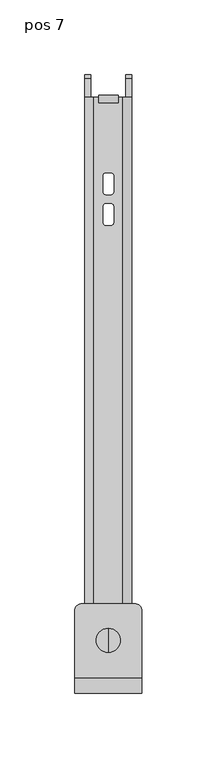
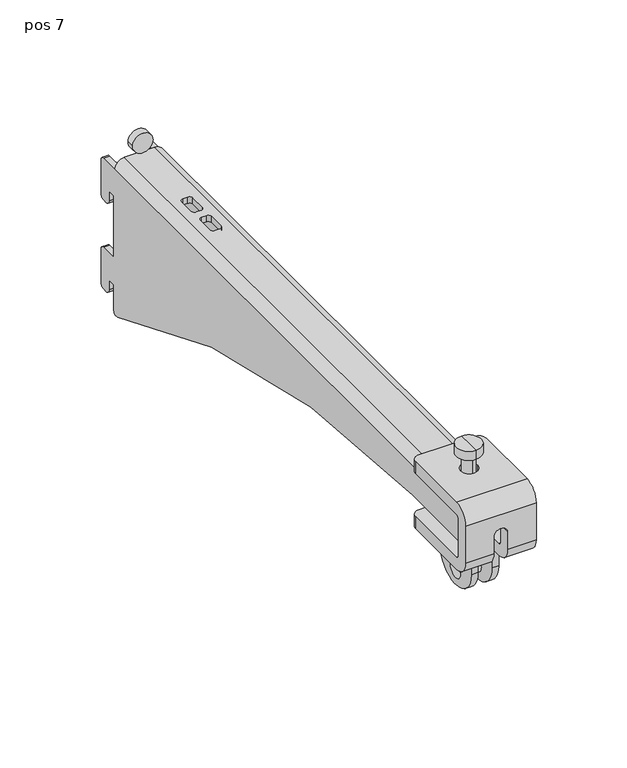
"""IFC4 building model written with IfcOpenShell, lengths in millimetres: proxy geometry, ePS12-WM380-BUMP-WVM : pos 7."""

from ifc_helpers import new_model, si_unit, point, frame, frame_2d, origin, place, context, project, spatial, polyline, circle_curve, trimmed, segment, composite_curve, outline, extrude, source, transform, mapped, element, save
from ifc_brep_helpers import plane_surface, cylinder_surface, revolved_surface, advanced_brep


def pos_7_1f363d26(model_context):
    return source(origin(), model_context, "Body", "SolidModel", [
        extrude(outline(composite_curve([segment(polyline([(-397.4094917, -61.9639301), (-397.4094917, -48.9639301), (-362.4094917, -48.9639301), (-362.4094917, -61.9639301)]), True, "CONTINUOUS"), segment(trimmed(circle_curve(frame_2d((-379.4094917, -61.9639301)), 17.0), [point((-362.4094917, -61.9639301))], [point((-379.4094917, -78.9639301))], False, "CARTESIAN"), True, "CONTINUOUS"), segment(polyline([(-379.4094917, -78.9639301), (-380.4094917, -78.9639301)]), True, "CONTINUOUS"), segment(trimmed(circle_curve(frame_2d((-380.4094917, -61.9639301)), 17.0), [point((-380.4094917, -78.9639301))], [point((-397.4094917, -61.9639301))], False, "CARTESIAN"), True, "CONTINUOUS")], self_intersect=False), holes=[composite_curve([segment(trimmed(circle_curve(frame_2d((-379.9094917, -68.9639301)), 5.5), [point((-374.4094917, -68.9639301))], [point((-385.4094917, -68.9639301))], True, "CARTESIAN"), True, "CONTINUOUS"), segment(trimmed(circle_curve(frame_2d((-379.9094917, -68.9639301)), 5.5), [point((-385.4094917, -68.9639301))], [point((-374.4094917, -68.9639301))], True, "CARTESIAN"), True, "CONTINUOUS")], self_intersect=False)]), frame((4.5, 0.0, 0.0), z_axis=(1.0, 0.0, 0.0), x_axis=(0.0, 1.0, 0.0)), (0.0, 0.0, 1.0), 4.2),
        extrude(outline(composite_curve([segment(polyline([(-397.4094917, -48.9639301), (-362.4094917, -48.9639301), (-362.4094917, -61.9639301)]), True, "CONTINUOUS"), segment(trimmed(circle_curve(frame_2d((-379.4094917, -61.9639301)), 17.0), [point((-362.4094917, -61.9639301))], [point((-379.4094917, -78.9639301))], False, "CARTESIAN"), True, "CONTINUOUS"), segment(polyline([(-379.4094917, -78.9639301), (-380.4094917, -78.9639301)]), True, "CONTINUOUS"), segment(trimmed(circle_curve(frame_2d((-380.4094917, -61.9639301)), 17.0), [point((-380.4094917, -78.9639301))], [point((-397.4094917, -61.9639301))], False, "CARTESIAN"), True, "CONTINUOUS"), segment(polyline([(-397.4094917, -61.9639301), (-397.4094917, -48.9639301)]), True, "CONTINUOUS")], self_intersect=False), holes=[composite_curve([segment(trimmed(circle_curve(frame_2d((-379.9094917, -68.9639301)), 5.5), [point((-385.4094917, -68.9639301))], [point((-374.4094917, -68.9639301))], True, "CARTESIAN"), True, "CONTINUOUS"), segment(trimmed(circle_curve(frame_2d((-379.9094917, -68.9639301)), 5.5), [point((-374.4094917, -68.9639301))], [point((-385.4094917, -68.9639301))], True, "CARTESIAN"), True, "CONTINUOUS")], self_intersect=False)]), frame((-8.7, 0.0, 0.0), z_axis=(1.0, 0.0, 0.0), x_axis=(0.0, 1.0, 0.0)), (0.0, 0.0, 1.0), 4.2),
        advanced_brep(
        [(22.5, -404.9094917, -3.9639301), (22.5, -414.9094917, -13.9639301), (22.5, -414.9094917, -38.9639301), (22.5, -404.9094917, -48.9639301), (22.5, -359.9094917, -48.9639301), (22.5, -359.9094917, -40.9639301), (22.5, -404.9094917, -40.9639301), (22.5, -406.9094917, -38.9639301), (22.5, -406.9094917, -13.9639301), (22.5, -404.9094917, -11.9639301), (22.5, -359.9094917, -11.9639301), (22.5, -359.9094917, -3.9639301), (-22.5, -404.9094917, -11.9639301), (-22.5, -406.9094917, -13.9639301), (-22.5, -406.9094917, -38.9639301), (-22.5, -404.9094917, -40.9639301), (-22.5, -359.9094917, -40.9639301), (-22.5, -359.9094917, -48.9639301), (-22.5, -404.9094917, -48.9639301), (-22.5, -414.9094917, -38.9639301), (-22.5, -414.9094917, -13.9639301), (-22.5, -404.9094917, -3.9639301), (-22.5, -359.9094917, -3.9639301), (-22.5, -359.9094917, -11.9639301), (-4.5, -414.9094917, -38.9639301), (-4.5, -414.9094917, -27.388708), (-0.5, -414.9094917, -23.388708), (0.5, -414.9094917, -23.388708), (4.5, -414.9094917, -27.388708), (4.5, -414.9094917, -38.9639301), (4.5, -404.9094917, -48.9639301), (-4.5, -404.9094917, -48.9639301), (4.5, -359.9094917, -48.9639301), (9.5, -354.9094917, -48.9639301), (17.5, -354.9094917, -48.9639301), (-17.5, -354.9094917, -48.9639301), (-9.5, -354.9094917, -48.9639301), (-4.5, -359.9094917, -48.9639301), (-17.5, -354.9094917, -40.9639301), (-9.5, -354.9094917, -40.9639301), (17.5, -354.9094917, -40.9639301), (9.5, -354.9094917, -40.9639301), (4.5, -359.9094917, -40.9639301), (4.5, -404.9094917, -40.9639301), (-4.5, -404.9094917, -40.9639301), (-4.5, -359.9094917, -40.9639301), (4.5, -406.9094917, -38.9639301), (-4.5, -406.9094917, -38.9639301), (4.5, -406.9094917, -27.388708), (0.5, -406.9094917, -23.388708), (-0.5, -406.9094917, -23.388708), (-4.5, -406.9094917, -27.388708), (-17.5, -354.9094917, -11.9639301), (17.5, -354.9094917, -11.9639301), (-5.4761514, -379.9094917, -11.9639301), (5.4761514, -379.9094917, -11.9639301), (-17.5, -354.9094917, -3.9639301), (17.5, -354.9094917, -3.9639301), (5.4761514, -379.9094917, -3.9639301), (-5.4761514, -379.9094917, -3.9639301)],
        [
            (0, 1, circle_curve(frame((22.5, -404.9094917, -13.9639301), z_axis=(1.0, 0.0, 0.0), x_axis=(0.0, 1.0, 0.0)), 10.0)),
            (1, 2),
            (2, 3, circle_curve(frame((22.5, -404.9094917, -38.9639301), z_axis=(1.0, 0.0, 0.0), x_axis=(0.0, 1.0, 0.0)), 10.0)),
            (3, 4),
            (4, 5),
            (5, 6),
            (6, 7, circle_curve(frame((22.5, -404.9094917, -38.9639301), z_axis=(-1.0, 0.0, 0.0), x_axis=(0.0, 1.0, 0.0)), 2.0)),
            (7, 8),
            (8, 9, circle_curve(frame((22.5, -404.9094917, -13.9639301), z_axis=(-1.0, 0.0, 0.0), x_axis=(0.0, 1.0, 0.0)), 2.0)),
            (9, 10),
            (10, 11),
            (11, 0),
            (12, 13, circle_curve(frame((-22.5, -404.9094917, -13.9639301), z_axis=(1.0, 0.0, 0.0), x_axis=(0.0, 1.0, 0.0)), 2.0)),
            (13, 14),
            (14, 15, circle_curve(frame((-22.5, -404.9094917, -38.9639301), z_axis=(1.0, 0.0, 0.0), x_axis=(0.0, 1.0, 0.0)), 2.0)),
            (15, 16),
            (16, 17),
            (17, 18),
            (18, 19, circle_curve(frame((-22.5, -404.9094917, -38.9639301), z_axis=(-1.0, 0.0, 0.0), x_axis=(0.0, 1.0, 0.0)), 10.0)),
            (19, 20),
            (20, 21, circle_curve(frame((-22.5, -404.9094917, -13.9639301), z_axis=(-1.0, 0.0, 0.0), x_axis=(0.0, 1.0, 0.0)), 10.0)),
            (21, 22),
            (22, 23),
            (23, 12),
            (0, 21),
            (20, 1),
            (19, 24),
            (24, 25),
            (25, 26, circle_curve(frame((-0.5, -414.9094917, -27.388708), z_axis=(0.0, 1.0, 0.0), x_axis=(1.0, 0.0, 0.0)), 4.0)),
            (26, 27),
            (27, 28, circle_curve(frame((0.5, -414.9094917, -27.388708), z_axis=(0.0, 1.0, 0.0), x_axis=(1.0, 0.0, 0.0)), 4.0)),
            (28, 29),
            (29, 2),
            (29, 30, circle_curve(frame((4.5, -404.9094917, -38.9639301), z_axis=(1.0, 0.0, 0.0), x_axis=(0.0, 1.0, 0.0)), 10.0)),
            (30, 3),
            (18, 31),
            (31, 24, circle_curve(frame((-4.5, -404.9094917, -38.9639301), z_axis=(-1.0, 0.0, 0.0), x_axis=(0.0, 1.0, 0.0)), 10.0)),
            (30, 32),
            (32, 33, circle_curve(frame((9.5, -359.9094917, -48.9639301), z_axis=(0.0, 0.0, -1.0), x_axis=(-1.0, 0.0, 0.0)), 5.0)),
            (33, 34),
            (34, 4, circle_curve(frame((17.5, -359.9094917, -48.9639301), z_axis=(0.0, 0.0, -1.0), x_axis=(-1.0, 0.0, 0.0)), 5.0)),
            (17, 35, circle_curve(frame((-17.5, -359.9094917, -48.9639301), z_axis=(0.0, 0.0, -1.0), x_axis=(1.0, 0.0, 0.0)), 5.0)),
            (35, 36),
            (36, 37, circle_curve(frame((-9.5, -359.9094917, -48.9639301), z_axis=(0.0, 0.0, -1.0), x_axis=(1.0, 0.0, 0.0)), 5.0)),
            (37, 31),
            (35, 38),
            (38, 39),
            (39, 36),
            (40, 34),
            (33, 41),
            (41, 40),
            (5, 40, circle_curve(frame((17.5, -359.9094917, -40.9639301), z_axis=(0.0, 0.0, 1.0), x_axis=(-1.0, 0.0, 0.0)), 5.0)),
            (41, 42, circle_curve(frame((9.5, -359.9094917, -40.9639301), z_axis=(0.0, 0.0, 1.0), x_axis=(-1.0, 0.0, 0.0)), 5.0)),
            (42, 43),
            (43, 6),
            (15, 44),
            (44, 45),
            (45, 39, circle_curve(frame((-9.5, -359.9094917, -40.9639301), z_axis=(0.0, 0.0, 1.0), x_axis=(1.0, 0.0, 0.0)), 5.0)),
            (38, 16, circle_curve(frame((-17.5, -359.9094917, -40.9639301), z_axis=(0.0, 0.0, 1.0), x_axis=(1.0, 0.0, 0.0)), 5.0)),
            (43, 46, circle_curve(frame((4.5, -404.9094917, -38.9639301), z_axis=(-1.0, 0.0, 0.0), x_axis=(0.0, 1.0, 0.0)), 2.0)),
            (46, 7),
            (14, 47),
            (47, 44, circle_curve(frame((-4.5, -404.9094917, -38.9639301), z_axis=(1.0, 0.0, 0.0), x_axis=(0.0, 1.0, 0.0)), 2.0)),
            (46, 48),
            (48, 49, circle_curve(frame((0.5, -406.9094917, -27.388708), z_axis=(0.0, -1.0, 0.0), x_axis=(1.0, 0.0, 0.0)), 4.0)),
            (49, 50),
            (50, 51, circle_curve(frame((-0.5, -406.9094917, -27.388708), z_axis=(0.0, -1.0, 0.0), x_axis=(1.0, 0.0, 0.0)), 4.0)),
            (51, 47),
            (13, 8),
            (12, 9),
            (23, 52, circle_curve(frame((-17.5, -359.9094917, -11.9639301), z_axis=(0.0, 0.0, -1.0), x_axis=(1.0, 0.0, 0.0)), 5.0)),
            (52, 53),
            (53, 10, circle_curve(frame((17.5, -359.9094917, -11.9639301), z_axis=(0.0, 0.0, -1.0), x_axis=(-1.0, 0.0, 0.0)), 5.0)),
            (54, 55, circle_curve(frame((0.0, -379.9094917, -11.9639301), z_axis=(0.0, 0.0, 1.0), x_axis=(1.0, 0.0, 0.0)), 5.4761514)),
            (55, 54, circle_curve(frame((0.0, -379.9094917, -11.9639301), z_axis=(0.0, 0.0, 1.0), x_axis=(1.0, 0.0, 0.0)), 5.4761514)),
            (52, 56),
            (56, 57),
            (57, 53),
            (11, 57, circle_curve(frame((17.5, -359.9094917, -3.9639301), z_axis=(0.0, 0.0, 1.0), x_axis=(-1.0, 0.0, 0.0)), 5.0)),
            (56, 22, circle_curve(frame((-17.5, -359.9094917, -3.9639301), z_axis=(0.0, 0.0, 1.0), x_axis=(1.0, 0.0, 0.0)), 5.0)),
            (58, 59, circle_curve(frame((0.0, -379.9094917, -3.9639301), z_axis=(0.0, 0.0, -1.0), x_axis=(1.0, 0.0, 0.0)), 5.4761514)),
            (59, 58, circle_curve(frame((0.0, -379.9094917, -3.9639301), z_axis=(0.0, 0.0, -1.0), x_axis=(1.0, 0.0, 0.0)), 5.4761514)),
            (58, 55),
            (54, 59),
            (28, 48),
            (42, 32),
            (27, 49),
            (26, 50),
            (25, 51),
            (37, 45),
        ],
        [
            plane_surface(frame((22.5, -394.9094917, -13.9639301), z_axis=(1.0, 0.0, 0.0), x_axis=(0.0, 0.0, 1.0))),
            plane_surface(frame((-22.5, -394.9094917, -13.9639301), z_axis=(-1.0, 0.0, 0.0), x_axis=(0.0, 0.0, -1.0))),
            cylinder_surface(frame((-22.5, -404.9094917, -13.9639301), z_axis=(1.0, 0.0, 0.0), x_axis=(0.0, 1.0, 0.0)), 10.0),
            plane_surface(frame((22.5, -414.9094917, -13.9639301), z_axis=(0.0, -1.0, 0.0), x_axis=(-1.0, 0.0, 0.0))),
            cylinder_surface(frame((-22.5, -404.9094917, -38.9639301), z_axis=(1.0, 0.0, 0.0), x_axis=(0.0, 1.0, 0.0)), 10.0),
            plane_surface(frame((22.5, -404.9094917, -48.9639301), z_axis=(0.0, 0.0, -1.0), x_axis=(-1.0, 0.0, 0.0))),
            plane_surface(frame((22.5, -354.9094917, -48.9639301), z_axis=(0.0, 1.0, 0.0), x_axis=(-1.0, 0.0, 0.0))),
            plane_surface(frame((22.5, -354.9094917, -40.9639301), z_axis=(0.0, 0.0, 1.0), x_axis=(-1.0, 0.0, 0.0))),
            revolved_surface(polyline([(4.5, -402.9094917, -38.9639301), (22.5, -402.9094917, -38.9639301)]), (-22.5, -404.9094917, -38.9639301), (-1.0, 0.0, 0.0)),
            revolved_surface(polyline([(-22.5, -402.9094917, -38.9639301), (-4.5, -402.9094917, -38.9639301)]), (-22.5, -404.9094917, -38.9639301), (-1.0, 0.0, 0.0)),
            plane_surface(frame((22.5, -406.9094917, -38.9639301), z_axis=(0.0, 1.0, 0.0), x_axis=(-1.0, 0.0, 0.0))),
            revolved_surface(polyline([(-22.5, -402.9094917, -13.9639301), (22.5, -402.9094917, -13.9639301)]), (-22.5, -404.9094917, -13.9639301), (-1.0, 0.0, 0.0)),
            plane_surface(frame((22.5, -404.9094917, -11.9639301), z_axis=(0.0, 0.0, -1.0), x_axis=(-1.0, 0.0, 0.0))),
            plane_surface(frame((22.5, -354.9094917, -11.9639301), z_axis=(0.0, 1.0, 0.0), x_axis=(-1.0, 0.0, 0.0))),
            plane_surface(frame((22.5, -354.9094917, -3.9639301), z_axis=(0.0, 0.0, 1.0), x_axis=(-1.0, 0.0, 0.0))),
            cylinder_surface(frame((-17.5, -359.9094917, -48.9639301), z_axis=(0.0, 0.0, -1.0), x_axis=(1.0, 0.0, 0.0)), 5.0),
            cylinder_surface(frame((17.5, -359.9094917, -11.9639301), z_axis=(0.0, 0.0, -1.0), x_axis=(-1.0, 0.0, 0.0)), 5.0),
            revolved_surface(polyline([(5.4761514, -379.9094917, -3.9639301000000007), (5.4761514, -379.9094917, -11.9639301)]), (0.0, -379.9094917, -11.9639301), (0.0, 0.0, 1.0)),
            plane_surface(frame((4.5, -414.9094917, -78.9639301), z_axis=(-1.0, 0.0, 0.0), x_axis=(0.0, 1.0, 0.0))),
            revolved_surface(polyline([(4.5, -414.9094917, -27.388708), (4.5, -406.9094917, -27.388708)]), (0.5, -354.9094917, -27.388708), (0.0, -1.0, 0.0)),
            plane_surface(frame((0.5, -414.9094917, -23.388708), z_axis=(0.0, 0.0, -1.0), x_axis=(0.0, 1.0, 0.0))),
            revolved_surface(polyline([(3.5, -414.9094917, -27.388708), (3.5, -406.9094917, -27.388708)]), (-0.5, -354.9094917, -27.388708), (0.0, -1.0, 0.0)),
            plane_surface(frame((-4.5, -414.9094917, -27.388708), z_axis=(1.0, 0.0, 0.0), x_axis=(0.0, 1.0, 0.0))),
            cylinder_surface(frame((-9.5, -359.9094917, -48.9639301), z_axis=(0.0, 0.0, -1.0), x_axis=(1.0, 0.0, 0.0)), 5.0),
            cylinder_surface(frame((9.5, -359.9094917, -11.9639301), z_axis=(0.0, 0.0, -1.0), x_axis=(-1.0, 0.0, 0.0)), 5.0),
        ],
        [
            (0, [[1, 2, 3, 4, 5, 6, 7, 8, 9, 10, 11, 12]]),
            (1, [[13, 14, 15, 16, 17, 18, 19, 20, 21, 22, 23, 24]]),
            (2, [[-1, 25, -21, 26]]),
            (3, [[-2, -26, -20, 27, 28, 29, 30, 31, 32, 33]]),
            (4, [[-3, -33, 34, 35]]),
            (4, [[-19, 36, 37, -27]]),
            (5, [[-4, -35, 38, 39, 40, 41]]),
            (5, [[-18, 42, 43, 44, 45, -36]]),
            (6, [[46, 47, 48, -43]]),
            (6, [[49, -40, 50, 51]]),
            (7, [[-6, 52, -51, 53, 54, 55]]),
            (7, [[-16, 56, 57, 58, -47, 59]]),
            (8, [[-7, -55, 60, 61]]),
            (9, [[-15, 62, 63, -56]]),
            (10, [[-8, -61, 64, 65, 66, 67, 68, -62, -14, 69]]),
            (11, [[-9, -69, -13, 70]]),
            (12, [[-70, -24, 71, 72, 73, -10], [74, 75]]),
            (13, [[-72, 76, 77, 78]]),
            (14, [[-25, -12, 79, -77, 80, -22], [81, 82]]),
            (15, [[-17, -59, -46, -42]]),
            (15, [[-23, -80, -76, -71]]),
            (16, [[-5, -41, -49, -52]]),
            (16, [[-11, -73, -78, -79]]),
            (17, [[83, -74, 84, -81]]),
            (17, [[-83, -82, -84, -75]]),
            (18, [[85, -64, -60, -54, 86, -38, -34, -32]]),
            (19, [[-85, -31, 87, -65]]),
            (20, [[-87, -30, 88, -66]]),
            (21, [[-88, -29, 89, -67]]),
            (22, [[-89, -28, -37, -45, 90, -57, -63, -68]]),
            (23, [[-44, -48, -58, -90]]),
            (24, [[-39, -86, -53, -50]]),
        ],
    ),
        advanced_brep(
        [(0.0, -371.5, 6.5732871), (0.0, -387.5, 6.5732871), (0.0, -387.5, 12.5197113), (0.0, -371.5, 12.5197113), (0.0, -375.5, 6.5732871), (0.0, -383.5, 6.5732871), (0.0, -375.5, -12.0), (0.0, -383.5, -12.0), (0.0, -379.5, 12.5197113)],
        [
            (0, 1, circle_curve(frame((0.0, -379.5, 6.5732871), z_axis=(0.0, 0.0, 1.0), x_axis=(0.0, -1.0, 0.0)), 8.0)),
            (1, 2),
            (2, 3, circle_curve(frame((0.0, -379.5, 12.5197113), z_axis=(0.0, 0.0, -1.0), x_axis=(0.0, -1.0, 0.0)), 8.0)),
            (3, 0),
            (1, 0, circle_curve(frame((0.0, -379.5, 6.5732871), z_axis=(0.0, 0.0, 1.0), x_axis=(0.0, -1.0, 0.0)), 8.0)),
            (3, 2, circle_curve(frame((0.0, -379.5, 12.5197113), z_axis=(0.0, 0.0, -1.0), x_axis=(0.0, -1.0, 0.0)), 8.0)),
            (0, 4),
            (4, 5, circle_curve(frame((0.0, -379.5, 6.5732871), z_axis=(0.0, 0.0, 1.0), x_axis=(0.0, -1.0, 0.0)), 4.0)),
            (5, 1),
            (5, 4, circle_curve(frame((0.0, -379.5, 6.5732871), z_axis=(0.0, 0.0, 1.0), x_axis=(0.0, -1.0, 0.0)), 4.0)),
            (4, 6),
            (6, 7, circle_curve(frame((0.0, -379.5, -12.0), z_axis=(0.0, 0.0, 1.0), x_axis=(0.0, -1.0, 0.0)), 4.0)),
            (7, 5),
            (7, 6, circle_curve(frame((0.0, -379.5, -12.0), z_axis=(0.0, 0.0, 1.0), x_axis=(0.0, -1.0, 0.0)), 4.0)),
            (2, 8),
            (8, 3),
        ],
        [
            cylinder_surface(frame((0.0, -379.5, 10.4453694), z_axis=(0.0, 0.0, -1.0), x_axis=(0.0, -1.0, 0.0)), 8.0),
            plane_surface(frame((0.0, -379.5, 6.5732871), z_axis=(0.0, 0.0, -1.0), x_axis=(0.0, -1.0, 0.0))),
            cylinder_surface(frame((0.0, -379.5, 10.4453694), z_axis=(0.0, 0.0, -1.0), x_axis=(0.0, -1.0, 0.0)), 4.0),
            plane_surface(frame((0.0, -379.5, 12.5197113), z_axis=(0.0, 0.0, 1.0), x_axis=(0.0, -1.0, 0.0))),
            plane_surface(frame((4.5, -379.5, -12.0), z_axis=(0.0, 0.0, -1.0), x_axis=(0.0, 1.0, 0.0))),
        ],
        [
            (0, [[1, 2, 3, 4]]),
            (0, [[-2, 5, -4, 6]]),
            (1, [[-1, 7, 8, 9]]),
            (1, [[-5, -9, 10, -7]]),
            (2, [[-8, 11, 12, 13]]),
            (2, [[-10, -13, 14, -11]]),
            (3, [[-3, 15, 16]]),
            (3, [[-6, -16, -15]]),
            (4, [[-12, -14]]),
        ],
    ),
        advanced_brep(
        [(0.0, -369.5, -16.0), (0.0, -389.5, -16.0), (0.0, -384.0, -16.0), (-4.5, -379.5, -16.0), (0.0, -375.0, -16.0), (4.5, -379.5, -16.0), (0.0, -369.5, -30.0), (0.0, -389.5, -30.0), (0.0, -379.5, -30.0), (-4.5, -379.5, -18.0), (4.5, -379.5, -18.0)],
        [
            (0, 1, circle_curve(frame((0.0, -379.5, -16.0), z_axis=(0.0, 0.0, 1.0), x_axis=(0.0, -1.0, 0.0)), 10.0)),
            (1, 2),
            (2, 3, circle_curve(frame((0.0, -379.5, -16.0), z_axis=(0.0, 0.0, -1.0), x_axis=(1.0, 0.0, 0.0)), 4.5)),
            (3, 4, circle_curve(frame((0.0, -379.5, -16.0), z_axis=(0.0, 0.0, -1.0), x_axis=(1.0, 0.0, 0.0)), 4.5)),
            (4, 0),
            (1, 0, circle_curve(frame((0.0, -379.5, -16.0), z_axis=(0.0, 0.0, 1.0), x_axis=(0.0, -1.0, 0.0)), 10.0)),
            (4, 5, circle_curve(frame((0.0, -379.5, -16.0), z_axis=(0.0, 0.0, -1.0), x_axis=(1.0, 0.0, 0.0)), 4.5)),
            (5, 2, circle_curve(frame((0.0, -379.5, -16.0), z_axis=(0.0, 0.0, -1.0), x_axis=(1.0, 0.0, 0.0)), 4.5)),
            (0, 6),
            (6, 7, circle_curve(frame((0.0, -379.5, -30.0), z_axis=(0.0, 0.0, 1.0), x_axis=(0.0, -1.0, 0.0)), 10.0)),
            (7, 1),
            (7, 6, circle_curve(frame((0.0, -379.5, -30.0), z_axis=(0.0, 0.0, 1.0), x_axis=(0.0, -1.0, 0.0)), 10.0)),
            (6, 8),
            (8, 7),
            (9, 10, circle_curve(frame((0.0, -379.5, -18.0), z_axis=(0.0, 0.0, 1.0), x_axis=(1.0, 0.0, 0.0)), 4.5)),
            (10, 9, circle_curve(frame((0.0, -379.5, -18.0), z_axis=(0.0, 0.0, 1.0), x_axis=(1.0, 0.0, 0.0)), 4.5)),
            (9, 3),
            (5, 10),
        ],
        [
            plane_surface(frame((0.0, -379.5, -16.0), z_axis=(0.0, 0.0, 1.0), x_axis=(0.0, -1.0, 0.0))),
            cylinder_surface(frame((0.0, -379.5, 10.4453694), z_axis=(0.0, 0.0, -1.0), x_axis=(0.0, -1.0, 0.0)), 10.0),
            plane_surface(frame((0.0, -379.5, -30.0), z_axis=(0.0, 0.0, -1.0), x_axis=(0.0, -1.0, 0.0))),
            plane_surface(frame((4.5, -379.5, -18.0), z_axis=(0.0, 0.0, 1.0), x_axis=(0.0, -1.0, 0.0))),
            revolved_surface(polyline([(4.5, -379.5, -16.0), (4.5, -379.5, -18.0)]), (0.0, -379.5, -18.0), (0.0, 0.0, 1.0)),
        ],
        [
            (0, [[1, 2, 3, 4, 5]]),
            (0, [[6, -5, 7, 8, -2]]),
            (1, [[-1, 9, 10, 11]]),
            (1, [[-6, -11, 12, -9]]),
            (2, [[-10, 13, 14]]),
            (2, [[-12, -14, -13]]),
            (3, [[15, 16]]),
            (4, [[-15, 17, -3, -8, 18]]),
            (4, [[-16, -18, -7, -4, -17]]),
        ],
    ),
        advanced_brep(
        [(-11.75, -399.8566017, -18.0), (-9.75, -399.8566017, -16.0), (9.75, -399.8566017, -16.0), (11.75, -399.8566017, -18.0), (11.75, -399.8566017, -35.0), (15.75, -399.8566017, -35.0), (15.75, -399.8566017, -17.9999955), (9.7500045, -399.8566017, -12.0), (-9.7500045, -399.8566017, -12.0), (-15.75, -399.8566017, -17.9999955), (-15.75, -399.8566017, -35.0), (-11.75, -399.8566017, -35.0), (15.75, -1.0, -19.5148645), (15.75, -1.0, -44.4851355), (11.75, -1.0, -44.4851355), (11.75, -1.0, -19.5148645), (15.75, -1.0, -79.5148645), (15.75, -1.0, -104.4851355), (11.75, -1.0, -104.4851355), (11.75, -1.0, -79.5148645), (-11.75, -1.0, -19.5148645), (-11.75, -1.0, -44.4851355), (-15.75, -1.0, -44.4851355), (-15.75, -1.0, -19.5148645), (-11.75, -1.0, -79.5148645), (-11.75, -1.0, -104.4851355), (-15.75, -1.0, -104.4851355), (-15.75, -1.0, -79.5148645), (-15.75, -3.6066017, -46.0), (-15.75, -6.6066017, -46.0), (-15.75, -9.6066017, -43.0), (-15.75, -9.6066017, -36.5), (-15.75, -14.6066017, -36.5), (-15.75, -14.6066017, -78.0), (-15.75, -3.6066017, -78.0), (-15.75, -3.6066017, -106.0), (-15.75, -6.6066017, -106.0), (-15.75, -9.6066017, -103.0), (-15.75, -9.6066017, -96.5), (-15.75, -14.6066017, -96.5), (-15.75, -14.6066017, -112.5881217), (-15.75, -16.6804563, -115.7221159), (-15.75, -19.036227, -115.7221159), (-15.75, -344.8566017, -38.0), (-15.75, -396.8566017, -38.0), (-15.75, -16.1066017, -17.9999955), (-15.75, -3.6066017, -18.0), (-11.75, -16.6804563, -115.7221159), (-11.75, -19.036227, -115.7221159), (-11.75, -3.6066017, -18.0), (-11.75, -16.1066017, -18.0), (-11.75, -396.8566017, -38.0), (-11.75, -344.8566017, -38.0), (-11.75, -14.6066017, -112.5881217), (-11.75, -14.6066017, -96.5), (-11.75, -9.6066017, -96.5), (-11.75, -9.6066017, -103.0), (-11.75, -6.6066017, -106.0), (-11.75, -3.6066017, -106.0), (-11.75, -3.6066017, -78.0), (-11.75, -14.6066017, -78.0), (-11.75, -14.6066017, -36.5), (-11.75, -9.6066017, -36.5), (-11.75, -9.6066017, -43.0), (-11.75, -6.6066017, -46.0), (-11.75, -3.6066017, -46.0), (-9.75, -16.1066017, -16.0), (9.75, -16.1066017, -16.0), (-4.5, -379.5, -16.0), (4.5, -379.5, -16.0), (3.5, -79.2837261, -16.0), (3.5, -68.7837261, -16.0), (1.5, -66.7837261, -16.0), (-1.5, -66.7837261, -16.0), (-3.5, -68.7837261, -16.0), (-3.5, -79.2837261, -16.0), (-1.5, -81.2837261, -16.0), (1.5, -81.2837261, -16.0), (3.5, -99.7837261, -16.0), (3.5, -89.2837261, -16.0), (1.5, -87.2837261, -16.0), (-1.5, -87.2837261, -16.0), (-3.5, -89.2837261, -16.0), (-3.5, -99.7837261, -16.0), (-1.5, -101.7837261, -16.0), (1.5, -101.7837261, -16.0), (11.75, -16.1066017, -18.0), (11.75, -3.6066017, -46.0), (11.75, -6.6066017, -46.0), (11.75, -9.6066017, -43.0), (11.75, -9.6066017, -36.5), (11.75, -14.6066017, -36.5), (11.75, -14.6066017, -78.0), (11.75, -3.6066017, -78.0), (11.75, -3.6066017, -106.0), (11.75, -6.6066017, -106.0), (11.75, -9.6066017, -103.0), (11.75, -9.6066017, -96.5), (11.75, -14.6066017, -96.5), (11.75, -14.6066017, -112.5881217), (11.75, -16.6804563, -115.7221159), (11.75, -19.036227, -115.7221159), (11.75, -344.8566017, -38.0), (11.75, -396.8566017, -38.0), (11.75, -3.6066017, -18.0), (15.75, -16.6804563, -115.7221159), (15.75, -19.036227, -115.7221159), (15.75, -3.6066017, -18.0), (15.75, -16.1066017, -18.0), (15.75, -396.8566017, -38.0), (15.75, -344.8566017, -38.0), (15.75, -14.6066017, -112.5881217), (15.75, -14.6066017, -96.5), (15.75, -9.6066017, -96.5), (15.75, -9.6066017, -103.0), (15.75, -6.6066017, -106.0), (15.75, -3.6066017, -106.0), (15.75, -3.6066017, -78.0), (15.75, -14.6066017, -78.0), (15.75, -14.6066017, -36.5), (15.75, -9.6066017, -36.5), (15.75, -9.6066017, -43.0), (15.75, -6.6066017, -46.0), (15.75, -3.6066017, -46.0), (9.7500045, -16.1066017, -12.0), (-9.7500045, -16.1066017, -12.0), (4.5, -379.5, -12.0), (-4.5, -379.5, -12.0), (3.5, -68.7837261, -12.0), (3.5, -79.2837261, -12.0), (1.5, -81.2837261, -12.0), (-1.5, -81.2837261, -12.0), (-3.5, -79.2837261, -12.0), (-3.5, -68.7837261, -12.0), (-1.5, -66.7837261, -12.0), (1.5, -66.7837261, -12.0), (3.5, -89.2837261, -12.0), (3.5, -99.7837261, -12.0), (1.5, -101.7837261, -12.0), (-1.5, -101.7837261, -12.0), (-3.5, -99.7837261, -12.0), (-3.5, -89.2837261, -12.0), (-1.5, -87.2837261, -12.0), (1.5, -87.2837261, -12.0)],
        [
            (0, 1, circle_curve(frame((-9.75, -399.8566017, -18.0), z_axis=(0.0, 1.0, 0.0), x_axis=(1.0, 0.0, 0.0)), 2.0)),
            (1, 2),
            (2, 3, circle_curve(frame((9.75, -399.8566017, -18.0), z_axis=(0.0, 1.0, 0.0), x_axis=(-1.0, 0.0, 0.0)), 2.0)),
            (3, 4),
            (4, 5),
            (5, 6),
            (6, 7, circle_curve(frame((9.7500045, -399.8566017, -17.9999955), z_axis=(0.0, -1.0, 0.0), x_axis=(-1.0, 0.0, 0.0)), 5.9999955)),
            (7, 8),
            (8, 9, circle_curve(frame((-9.7500045, -399.8566017, -17.9999955), z_axis=(0.0, -1.0, 0.0), x_axis=(1.0, 0.0, 0.0)), 5.9999955)),
            (9, 10),
            (10, 11),
            (11, 0),
            (12, 13),
            (13, 14),
            (14, 15),
            (15, 12),
            (16, 17),
            (17, 18),
            (18, 19),
            (19, 16),
            (20, 21),
            (21, 22),
            (22, 23),
            (23, 20),
            (24, 25),
            (25, 26),
            (26, 27),
            (27, 24),
            (22, 28, circle_curve(frame((-15.75, -3.6066017, -43.0), z_axis=(-1.0, 0.0, 0.0), x_axis=(0.0, 1.0, 0.0)), 3.0)),
            (28, 29),
            (29, 30, circle_curve(frame((-15.75, -6.6066017, -43.0), z_axis=(-1.0, 0.0, 0.0), x_axis=(0.0, 1.0, 0.0)), 3.0)),
            (30, 31),
            (31, 32),
            (32, 33),
            (33, 34),
            (34, 27, circle_curve(frame((-15.75, -3.6066017, -81.0), z_axis=(-1.0, 0.0, 0.0), x_axis=(0.0, 1.0, 0.0)), 3.0)),
            (26, 35, circle_curve(frame((-15.75, -3.6066017, -103.0), z_axis=(-1.0, 0.0, 0.0), x_axis=(0.0, 1.0, 0.0)), 3.0)),
            (35, 36),
            (36, 37, circle_curve(frame((-15.75, -6.6066017, -103.0), z_axis=(-1.0, 0.0, 0.0), x_axis=(0.0, 1.0, 0.0)), 3.0)),
            (37, 38),
            (38, 39),
            (39, 40),
            (40, 41, circle_curve(frame((-15.75, -18.0115638, -112.5881217), z_axis=(-1.0, 0.0, 0.0), x_axis=(0.0, 1.0, 0.0)), 3.4049621)),
            (41, 42),
            (42, 43, circle_curve(frame((-15.75, -345.1054235, -760.8430736), z_axis=(1.0, 0.0, 0.0), x_axis=(0.0, 1.0, 0.0)), 722.8431164)),
            (43, 44),
            (44, 10, circle_curve(frame((-15.75, -396.8566017, -35.0), z_axis=(-1.0, 0.0, 0.0), x_axis=(0.0, 1.0, 0.0)), 3.0)),
            (9, 45),
            (45, 46),
            (46, 23, circle_curve(frame((-15.75, -3.6066017, -21.0), z_axis=(-1.0, 0.0, 0.0), x_axis=(0.0, 1.0, 0.0)), 3.0)),
            (41, 47),
            (47, 48),
            (48, 42),
            (20, 49, circle_curve(frame((-11.75, -3.6066017, -21.0), z_axis=(1.0, 0.0, 0.0), x_axis=(0.0, 1.0, 0.0)), 3.0)),
            (49, 50),
            (50, 0),
            (11, 51, circle_curve(frame((-11.75, -396.8566017, -35.0), z_axis=(1.0, 0.0, 0.0), x_axis=(0.0, 1.0, 0.0)), 3.0)),
            (51, 52),
            (52, 48, circle_curve(frame((-11.75, -345.1054235, -760.8430736), z_axis=(-1.0, 0.0, 0.0), x_axis=(0.0, 1.0, 0.0)), 722.8431164)),
            (47, 53, circle_curve(frame((-11.75, -18.0115638, -112.5881217), z_axis=(1.0, 0.0, 0.0), x_axis=(0.0, 1.0, 0.0)), 3.4049621)),
            (53, 54),
            (54, 55),
            (55, 56),
            (56, 57, circle_curve(frame((-11.75, -6.6066017, -103.0), z_axis=(1.0, 0.0, 0.0), x_axis=(0.0, 1.0, 0.0)), 3.0)),
            (57, 58),
            (58, 25, circle_curve(frame((-11.75, -3.6066017, -103.0), z_axis=(1.0, 0.0, 0.0), x_axis=(0.0, 1.0, 0.0)), 3.0)),
            (24, 59, circle_curve(frame((-11.75, -3.6066017, -81.0), z_axis=(1.0, 0.0, 0.0), x_axis=(0.0, 1.0, 0.0)), 3.0)),
            (59, 60),
            (60, 61),
            (61, 62),
            (62, 63),
            (63, 64, circle_curve(frame((-11.75, -6.6066017, -43.0), z_axis=(1.0, 0.0, 0.0), x_axis=(0.0, 1.0, 0.0)), 3.0)),
            (64, 65),
            (65, 21, circle_curve(frame((-11.75, -3.6066017, -43.0), z_axis=(1.0, 0.0, 0.0), x_axis=(0.0, 1.0, 0.0)), 3.0)),
            (50, 66, circle_curve(frame((-9.75, -16.1066017, -18.0), z_axis=(0.0, 1.0, 0.0), x_axis=(1.0, 0.0, 0.0)), 2.0)),
            (66, 1),
            (66, 67),
            (67, 2),
            (68, 69, circle_curve(frame((0.0, -379.5, -16.0), z_axis=(0.0, 0.0, 1.0), x_axis=(1.0, 0.0, 0.0)), 4.5)),
            (69, 68, circle_curve(frame((0.0, -379.5, -16.0), z_axis=(0.0, 0.0, 1.0), x_axis=(1.0, 0.0, 0.0)), 4.5)),
            (70, 71),
            (71, 72, circle_curve(frame((1.5, -68.7837261, -16.0), z_axis=(0.0, 0.0, 1.0), x_axis=(1.0, 0.0, 0.0)), 2.0)),
            (72, 73),
            (73, 74, circle_curve(frame((-1.5, -68.7837261, -16.0), z_axis=(0.0, 0.0, 1.0), x_axis=(-1.0, 0.0, 0.0)), 2.0)),
            (74, 75),
            (75, 76, circle_curve(frame((-1.5, -79.2837261, -16.0), z_axis=(0.0, 0.0, 1.0), x_axis=(-1.0, 0.0, 0.0)), 2.0)),
            (76, 77),
            (77, 70, circle_curve(frame((1.5, -79.2837261, -16.0), z_axis=(0.0, 0.0, 1.0), x_axis=(1.0, 0.0, 0.0)), 2.0)),
            (78, 79),
            (79, 80, circle_curve(frame((1.5, -89.2837261, -16.0), z_axis=(0.0, 0.0, 1.0), x_axis=(1.0, 0.0, 0.0)), 2.0)),
            (80, 81),
            (81, 82, circle_curve(frame((-1.5, -89.2837261, -16.0), z_axis=(0.0, 0.0, 1.0), x_axis=(-1.0, 0.0, 0.0)), 2.0)),
            (82, 83),
            (83, 84, circle_curve(frame((-1.5, -99.7837261, -16.0), z_axis=(0.0, 0.0, 1.0), x_axis=(-1.0, 0.0, 0.0)), 2.0)),
            (84, 85),
            (85, 78, circle_curve(frame((1.5, -99.7837261, -16.0), z_axis=(0.0, 0.0, 1.0), x_axis=(1.0, 0.0, 0.0)), 2.0)),
            (67, 86, circle_curve(frame((9.75, -16.1066017, -18.0), z_axis=(0.0, 1.0, 0.0), x_axis=(-1.0, 0.0, 0.0)), 2.0)),
            (86, 3),
            (14, 87, circle_curve(frame((11.75, -3.6066017, -43.0), z_axis=(-1.0, 0.0, 0.0), x_axis=(0.0, 1.0, 0.0)), 3.0)),
            (87, 88),
            (88, 89, circle_curve(frame((11.75, -6.6066017, -43.0), z_axis=(-1.0, 0.0, 0.0), x_axis=(0.0, 1.0, 0.0)), 3.0)),
            (89, 90),
            (90, 91),
            (91, 92),
            (92, 93),
            (93, 19, circle_curve(frame((11.75, -3.6066017, -81.0), z_axis=(-1.0, 0.0, 0.0), x_axis=(0.0, 1.0, 0.0)), 3.0)),
            (18, 94, circle_curve(frame((11.75, -3.6066017, -103.0), z_axis=(-1.0, 0.0, 0.0), x_axis=(0.0, 1.0, 0.0)), 3.0)),
            (94, 95),
            (95, 96, circle_curve(frame((11.75, -6.6066017, -103.0), z_axis=(-1.0, 0.0, 0.0), x_axis=(0.0, 1.0, 0.0)), 3.0)),
            (96, 97),
            (97, 98),
            (98, 99),
            (99, 100, circle_curve(frame((11.75, -18.0115638, -112.5881217), z_axis=(-1.0, 0.0, 0.0), x_axis=(0.0, 1.0, 0.0)), 3.4049621)),
            (100, 101),
            (101, 102, circle_curve(frame((11.75, -345.1054235, -760.8430736), z_axis=(1.0, 0.0, 0.0), x_axis=(0.0, 1.0, 0.0)), 722.8431164)),
            (102, 103),
            (103, 4, circle_curve(frame((11.75, -396.8566017, -35.0), z_axis=(-1.0, 0.0, 0.0), x_axis=(0.0, 1.0, 0.0)), 3.0)),
            (86, 104),
            (104, 15, circle_curve(frame((11.75, -3.6066017, -21.0), z_axis=(-1.0, 0.0, 0.0), x_axis=(0.0, 1.0, 0.0)), 3.0)),
            (100, 105),
            (105, 106),
            (106, 101),
            (12, 107, circle_curve(frame((15.75, -3.6066017, -21.0), z_axis=(1.0, 0.0, 0.0), x_axis=(0.0, 1.0, 0.0)), 3.0)),
            (107, 108),
            (108, 6),
            (5, 109, circle_curve(frame((15.75, -396.8566017, -35.0), z_axis=(1.0, 0.0, 0.0), x_axis=(0.0, 1.0, 0.0)), 3.0)),
            (109, 110),
            (110, 106, circle_curve(frame((15.75, -345.1054235, -760.8430736), z_axis=(-1.0, 0.0, 0.0), x_axis=(0.0, 1.0, 0.0)), 722.8431164)),
            (105, 111, circle_curve(frame((15.75, -18.0115638, -112.5881217), z_axis=(1.0, 0.0, 0.0), x_axis=(0.0, 1.0, 0.0)), 3.4049621)),
            (111, 112),
            (112, 113),
            (113, 114),
            (114, 115, circle_curve(frame((15.75, -6.6066017, -103.0), z_axis=(1.0, 0.0, 0.0), x_axis=(0.0, 1.0, 0.0)), 3.0)),
            (115, 116),
            (116, 17, circle_curve(frame((15.75, -3.6066017, -103.0), z_axis=(1.0, 0.0, 0.0), x_axis=(0.0, 1.0, 0.0)), 3.0)),
            (16, 117, circle_curve(frame((15.75, -3.6066017, -81.0), z_axis=(1.0, 0.0, 0.0), x_axis=(0.0, 1.0, 0.0)), 3.0)),
            (117, 118),
            (118, 119),
            (119, 120),
            (120, 121),
            (121, 122, circle_curve(frame((15.75, -6.6066017, -43.0), z_axis=(1.0, 0.0, 0.0), x_axis=(0.0, 1.0, 0.0)), 3.0)),
            (122, 123),
            (123, 13, circle_curve(frame((15.75, -3.6066017, -43.0), z_axis=(1.0, 0.0, 0.0), x_axis=(0.0, 1.0, 0.0)), 3.0)),
            (108, 124, circle_curve(frame((9.7500045, -16.1066017, -17.9999955), z_axis=(0.0, -1.0, 0.0), x_axis=(-1.0, 0.0, 0.0)), 5.9999955)),
            (124, 7),
            (124, 125),
            (125, 8),
            (126, 127, circle_curve(frame((0.0, -379.5, -12.0), z_axis=(0.0, 0.0, -1.0), x_axis=(1.0, 0.0, 0.0)), 4.5)),
            (127, 126, circle_curve(frame((0.0, -379.5, -12.0), z_axis=(0.0, 0.0, -1.0), x_axis=(1.0, 0.0, 0.0)), 4.5)),
            (128, 129),
            (129, 130, circle_curve(frame((1.5, -79.2837261, -12.0), z_axis=(0.0, 0.0, -1.0), x_axis=(1.0, 0.0, 0.0)), 2.0)),
            (130, 131),
            (131, 132, circle_curve(frame((-1.5, -79.2837261, -12.0), z_axis=(0.0, 0.0, -1.0), x_axis=(-1.0, 0.0, 0.0)), 2.0)),
            (132, 133),
            (133, 134, circle_curve(frame((-1.5, -68.7837261, -12.0), z_axis=(0.0, 0.0, -1.0), x_axis=(-1.0, 0.0, 0.0)), 2.0)),
            (134, 135),
            (135, 128, circle_curve(frame((1.5, -68.7837261, -12.0), z_axis=(0.0, 0.0, -1.0), x_axis=(1.0, 0.0, 0.0)), 2.0)),
            (136, 137),
            (137, 138, circle_curve(frame((1.5, -99.7837261, -12.0), z_axis=(0.0, 0.0, -1.0), x_axis=(1.0, 0.0, 0.0)), 2.0)),
            (138, 139),
            (139, 140, circle_curve(frame((-1.5, -99.7837261, -12.0), z_axis=(0.0, 0.0, -1.0), x_axis=(-1.0, 0.0, 0.0)), 2.0)),
            (140, 141),
            (141, 142, circle_curve(frame((-1.5, -89.2837261, -12.0), z_axis=(0.0, 0.0, -1.0), x_axis=(-1.0, 0.0, 0.0)), 2.0)),
            (142, 143),
            (143, 136, circle_curve(frame((1.5, -89.2837261, -12.0), z_axis=(0.0, 0.0, -1.0), x_axis=(1.0, 0.0, 0.0)), 2.0)),
            (125, 45, circle_curve(frame((-9.7500045, -16.1066017, -17.9999955), z_axis=(0.0, -1.0, 0.0), x_axis=(1.0, 0.0, 0.0)), 5.9999955)),
            (68, 127),
            (126, 69),
            (70, 129),
            (128, 71),
            (135, 72),
            (134, 73),
            (133, 74),
            (132, 75),
            (131, 76),
            (130, 77),
            (78, 137),
            (136, 79),
            (143, 80),
            (142, 81),
            (141, 82),
            (140, 83),
            (139, 84),
            (138, 85),
            (28, 65),
            (64, 29),
            (87, 123),
            (122, 88),
            (30, 63),
            (62, 31),
            (89, 121),
            (120, 90),
            (61, 32),
            (119, 91),
            (39, 54),
            (53, 40),
            (98, 112),
            (111, 99),
            (50, 45),
            (108, 86),
            (49, 46),
            (107, 104),
            (60, 33),
            (118, 92),
            (59, 34),
            (117, 93),
            (58, 35),
            (116, 94),
            (57, 36),
            (115, 95),
            (56, 37),
            (114, 96),
            (55, 38),
            (113, 97),
            (44, 51),
            (103, 109),
            (52, 43),
            (110, 102),
        ],
        [
            plane_surface(frame((-15.75, -399.8566017, -111.5465509), z_axis=(0.0, -1.0, 0.0), x_axis=(0.0, 0.0, -1.0))),
            plane_surface(frame((-15.75, -1.0, -111.5465509), z_axis=(0.0, 1.0, 0.0), x_axis=(0.0, 0.0, 1.0))),
            plane_surface(frame((-15.75, -399.8566017, -17.9999955), z_axis=(-1.0, 0.0, 0.0), x_axis=(0.0, 1.0, 0.0))),
            plane_surface(frame((-15.75, -399.8566017, -115.7221159), z_axis=(0.0, 0.0, -1.0), x_axis=(0.0, 1.0, 0.0))),
            plane_surface(frame((-11.75, -399.8566017, -115.7221159), z_axis=(1.0, 0.0, 0.0), x_axis=(0.0, 1.0, 0.0))),
            revolved_surface(polyline([(-7.75, -16.1066017, -18.0), (-7.75, -399.8566017, -18.0)]), (-9.75, -1.0, -18.0), (0.0, 1.0, 0.0)),
            plane_surface(frame((-9.75, -399.8566017, -16.0), z_axis=(0.0, 0.0, -1.0), x_axis=(0.0, 1.0, 0.0))),
            revolved_surface(polyline([(7.75, -16.1066017, -18.0), (7.75, -399.8566017, -18.0)]), (9.75, -1.0, -18.0), (0.0, 1.0, 0.0)),
            plane_surface(frame((11.75, -399.8566017, -18.0), z_axis=(-1.0, 0.0, 0.0), x_axis=(0.0, 1.0, 0.0))),
            plane_surface(frame((11.75, -399.8566017, -115.7221159), z_axis=(0.0, 0.0, -1.0), x_axis=(0.0, 1.0, 0.0))),
            plane_surface(frame((15.75, -399.8566017, -115.7221159), z_axis=(1.0, 0.0, 0.0), x_axis=(0.0, 1.0, 0.0))),
            cylinder_surface(frame((9.7500045, -1.0, -17.9999955), z_axis=(0.0, -1.0, 0.0), x_axis=(-1.0, 0.0, 0.0)), 5.9999955),
            plane_surface(frame((9.7500045, -399.8566017, -12.0), z_axis=(0.0, 0.0, 1.0), x_axis=(0.0, 1.0, 0.0))),
            cylinder_surface(frame((-9.7500045, -1.0, -17.9999955), z_axis=(0.0, -1.0, 0.0), x_axis=(1.0, 0.0, 0.0)), 5.9999955),
            revolved_surface(polyline([(4.5, -379.5, -12.0), (4.5, -379.5, -16.0)]), (0.0, -379.5, -18.0), (0.0, 0.0, 1.0)),
            plane_surface(frame((3.5, -79.2837261, -12.0), z_axis=(-1.0, 0.0, 0.0), x_axis=(0.0, 0.0, -1.0))),
            revolved_surface(polyline([(3.5, -68.7837261, -12.0), (3.5, -68.7837261, -16.0)]), (1.5, -68.7837261, -12.0), (0.0, 0.0, 1.0)),
            plane_surface(frame((1.5, -66.7837261, -12.0), z_axis=(0.0, -1.0, 0.0), x_axis=(0.0, 0.0, -1.0))),
            revolved_surface(polyline([(-3.5, -68.7837261, -12.0), (-3.5, -68.7837261, -16.0)]), (-1.5, -68.7837261, -12.0), (0.0, 0.0, 1.0)),
            plane_surface(frame((-3.5, -68.7837261, -12.0), z_axis=(1.0, 0.0, 0.0), x_axis=(0.0, 0.0, -1.0))),
            revolved_surface(polyline([(-3.5, -79.2837261, -12.0), (-3.5, -79.2837261, -16.0)]), (-1.5, -79.2837261, -12.0), (0.0, 0.0, 1.0)),
            plane_surface(frame((-1.5, -81.2837261, -12.0), z_axis=(0.0, 1.0, 0.0), x_axis=(0.0, 0.0, -1.0))),
            revolved_surface(polyline([(3.5, -79.2837261, -12.0), (3.5, -79.2837261, -16.0)]), (1.5, -79.2837261, -12.0), (0.0, 0.0, 1.0)),
            plane_surface(frame((3.5, -99.7837261, -12.0), z_axis=(-1.0, 0.0, 0.0), x_axis=(0.0, 0.0, -1.0))),
            revolved_surface(polyline([(3.5, -89.2837261, -12.0), (3.5, -89.2837261, -16.0)]), (1.5, -89.2837261, -12.0), (0.0, 0.0, 1.0)),
            plane_surface(frame((1.5, -87.2837261, -12.0), z_axis=(0.0, -1.0, 0.0), x_axis=(0.0, 0.0, -1.0))),
            revolved_surface(polyline([(-3.5, -89.2837261, -12.0), (-3.5, -89.2837261, -16.0)]), (-1.5, -89.2837261, -12.0), (0.0, 0.0, 1.0)),
            plane_surface(frame((-3.5, -89.2837261, -12.0), z_axis=(1.0, 0.0, 0.0), x_axis=(0.0, 0.0, -1.0))),
            revolved_surface(polyline([(-3.5, -99.7837261, -12.0), (-3.5, -99.7837261, -16.0)]), (-1.5, -99.7837261, -12.0), (0.0, 0.0, 1.0)),
            plane_surface(frame((-1.5, -101.7837261, -12.0), z_axis=(0.0, 1.0, 0.0), x_axis=(0.0, 0.0, -1.0))),
            revolved_surface(polyline([(3.5, -99.7837261, -12.0), (3.5, -99.7837261, -16.0)]), (1.5, -99.7837261, -12.0), (0.0, 0.0, 1.0)),
            plane_surface(frame((20.0, -3.6066017, -46.0), z_axis=(0.0, 0.0, -1.0), x_axis=(-1.0, 0.0, 0.0))),
            plane_surface(frame((20.0, -9.6066017, -43.0), z_axis=(0.0, -1.0, 0.0), x_axis=(-1.0, 0.0, 0.0))),
            plane_surface(frame((20.0, -9.6066017, -36.5), z_axis=(0.0, 0.0, -1.0), x_axis=(-1.0, 0.0, 0.0))),
            plane_surface(frame((20.0, -14.6066017, -96.5), z_axis=(0.0, 1.0, 0.0), x_axis=(-1.0, 0.0, 0.0))),
            plane_surface(frame((20.0, -16.1066017, -12.0), z_axis=(0.0, 1.0, 0.0), x_axis=(-1.0, 0.0, 0.0))),
            plane_surface(frame((20.0, -16.1066017, -18.0), z_axis=(0.0, 0.0, 1.0), x_axis=(-1.0, 0.0, 0.0))),
            cylinder_surface(frame((-20.0, -3.6066017, -21.0), z_axis=(-1.0, 0.0, 0.0), x_axis=(0.0, 1.0, 0.0)), 3.0),
            cylinder_surface(frame((-20.0, -3.6066017, -43.0), z_axis=(-1.0, 0.0, 0.0), x_axis=(0.0, 1.0, 0.0)), 3.0),
            cylinder_surface(frame((-20.0, -6.6066017, -43.0), z_axis=(-1.0, 0.0, 0.0), x_axis=(0.0, 1.0, 0.0)), 3.0),
            plane_surface(frame((20.0, -14.6066017, -36.5), z_axis=(0.0, 1.0, 0.0), x_axis=(-1.0, 0.0, 0.0))),
            plane_surface(frame((20.0, -14.6066017, -78.0), z_axis=(0.0, 0.0, 1.0), x_axis=(-1.0, 0.0, 0.0))),
            cylinder_surface(frame((-20.0, -3.6066017, -81.0), z_axis=(-1.0, 0.0, 0.0), x_axis=(0.0, 1.0, 0.0)), 3.0),
            cylinder_surface(frame((-20.0, -3.6066017, -103.0), z_axis=(-1.0, 0.0, 0.0), x_axis=(0.0, 1.0, 0.0)), 3.0),
            plane_surface(frame((20.0, -3.6066017, -106.0), z_axis=(0.0, 0.0, -1.0), x_axis=(-1.0, 0.0, 0.0))),
            cylinder_surface(frame((-20.0, -6.6066017, -103.0), z_axis=(-1.0, 0.0, 0.0), x_axis=(0.0, 1.0, 0.0)), 3.0),
            plane_surface(frame((20.0, -9.6066017, -103.0), z_axis=(0.0, -1.0, 0.0), x_axis=(-1.0, 0.0, 0.0))),
            plane_surface(frame((20.0, -9.6066017, -96.5), z_axis=(0.0, 0.0, -1.0), x_axis=(-1.0, 0.0, 0.0))),
            cylinder_surface(frame((-25.0, -396.8566017, -35.0), z_axis=(-1.0, 0.0, 0.0), x_axis=(0.0, 1.0, 0.0)), 3.0),
            cylinder_surface(frame((-25.0, -18.0115638, -112.5881217), z_axis=(-1.0, 0.0, 0.0), x_axis=(0.0, 1.0, 0.0)), 3.4049621),
            revolved_surface(polyline([(-11.75, 377.7376929, -760.8430736), (-15.75, 377.7376929, -760.8430736)]), (-25.0, -345.1054235, -760.8430736), (1.0, 0.0, 0.0)),
            revolved_surface(polyline([(15.75, 377.7376929, -760.8430736), (11.75, 377.7376929, -760.8430736)]), (-25.0, -345.1054235, -760.8430736), (1.0, 0.0, 0.0)),
            plane_surface(frame((25.0, -344.8566017, -38.0), z_axis=(0.0, 0.0, -1.0), x_axis=(-1.0, 0.0, 0.0))),
        ],
        [
            (0, [[1, 2, 3, 4, 5, 6, 7, 8, 9, 10, 11, 12]]),
            (1, [[13, 14, 15, 16]]),
            (1, [[17, 18, 19, 20]]),
            (1, [[21, 22, 23, 24]]),
            (1, [[25, 26, 27, 28]]),
            (2, [[-23, 29, 30, 31, 32, 33, 34, 35, 36, -27, 37, 38, 39, 40, 41, 42, 43, 44, 45, 46, 47, -10, 48, 49, 50]]),
            (3, [[-44, 51, 52, 53]]),
            (4, [[-21, 54, 55, 56, -12, 57, 58, 59, -52, 60, 61, 62, 63, 64, 65, 66, -25, 67, 68, 69, 70, 71, 72, 73, 74]]),
            (5, [[-1, -56, 75, 76]]),
            (6, [[-2, -76, 77, 78], [79, 80], [81, 82, 83, 84, 85, 86, 87, 88], [89, 90, 91, 92, 93, 94, 95, 96]]),
            (7, [[-3, -78, 97, 98]]),
            (8, [[-15, 99, 100, 101, 102, 103, 104, 105, 106, -19, 107, 108, 109, 110, 111, 112, 113, 114, 115, 116, 117, -4, -98, 118, 119]]),
            (9, [[-114, 120, 121, 122]]),
            (10, [[-13, 123, 124, 125, -6, 126, 127, 128, -121, 129, 130, 131, 132, 133, 134, 135, -17, 136, 137, 138, 139, 140, 141, 142, 143]]),
            (11, [[-7, -125, 144, 145]]),
            (12, [[-8, -145, 146, 147], [148, 149], [150, 151, 152, 153, 154, 155, 156, 157], [158, 159, 160, 161, 162, 163, 164, 165]]),
            (13, [[-9, -147, 166, -48]]),
            (14, [[167, -148, 168, -79]]),
            (14, [[-167, -80, -168, -149]]),
            (15, [[169, -150, 170, -81]]),
            (16, [[-170, -157, 171, -82]]),
            (17, [[-171, -156, 172, -83]]),
            (18, [[-172, -155, 173, -84]]),
            (19, [[-173, -154, 174, -85]]),
            (20, [[-174, -153, 175, -86]]),
            (21, [[-175, -152, 176, -87]]),
            (22, [[-169, -88, -176, -151]]),
            (23, [[177, -158, 178, -89]]),
            (24, [[-178, -165, 179, -90]]),
            (25, [[-179, -164, 180, -91]]),
            (26, [[-180, -163, 181, -92]]),
            (27, [[-181, -162, 182, -93]]),
            (28, [[-182, -161, 183, -94]]),
            (29, [[-183, -160, 184, -95]]),
            (30, [[-177, -96, -184, -159]]),
            (31, [[185, -73, 186, -30]]),
            (31, [[187, -142, 188, -100]]),
            (32, [[189, -71, 190, -32]]),
            (32, [[191, -140, 192, -102]]),
            (33, [[-190, -70, 193, -33]]),
            (33, [[-192, -139, 194, -103]]),
            (34, [[195, -61, 196, -42]]),
            (34, [[197, -130, 198, -112]]),
            (35, [[199, -166, -146, -144, 200, -97, -77, -75]]),
            (36, [[-199, -55, 201, -49]]),
            (36, [[-200, -124, 202, -118]]),
            (37, [[-201, -54, -24, -50]]),
            (37, [[-202, -123, -16, -119]]),
            (38, [[-185, -29, -22, -74]]),
            (38, [[-187, -99, -14, -143]]),
            (39, [[-189, -31, -186, -72]]),
            (39, [[-191, -101, -188, -141]]),
            (40, [[-193, -69, 203, -34]]),
            (40, [[-194, -138, 204, -104]]),
            (41, [[-203, -68, 205, -35]]),
            (41, [[-204, -137, 206, -105]]),
            (42, [[-205, -67, -28, -36]]),
            (42, [[-206, -136, -20, -106]]),
            (43, [[207, -37, -26, -66]]),
            (43, [[208, -107, -18, -135]]),
            (44, [[-207, -65, 209, -38]]),
            (44, [[-208, -134, 210, -108]]),
            (45, [[-209, -64, 211, -39]]),
            (45, [[-210, -133, 212, -109]]),
            (46, [[-211, -63, 213, -40]]),
            (46, [[-212, -132, 214, -110]]),
            (47, [[-195, -41, -213, -62]]),
            (47, [[-197, -111, -214, -131]]),
            (48, [[215, -57, -11, -47]]),
            (48, [[216, -126, -5, -117]]),
            (49, [[-43, -196, -60, -51]]),
            (49, [[-113, -198, -129, -120]]),
            (50, [[217, -45, -53, -59]]),
            (51, [[218, -115, -122, -128]]),
            (52, [[-215, -46, -217, -58]]),
            (52, [[-216, -116, -218, -127]]),
        ],
    ),
        extrude(outline(composite_curve([segment(trimmed(circle_curve(frame_2d((-3.5647723, 0.0)), 6.5342939), [point((-3.5647723, -6.5342939))], [point((-3.5647723, 6.5342939))], False, "CARTESIAN"), True, "CONTINUOUS"), segment(trimmed(circle_curve(frame_2d((-3.5647723, 0.0)), 6.5342939), [point((-3.5647723, 6.5342939))], [point((-3.5647723, -6.5342939))], False, "CARTESIAN"), True, "CONTINUOUS")], self_intersect=False)), frame((0.0, -19.6066017, 0.0), z_axis=(0.0, 1.0, 0.0), x_axis=(0.0, 0.0, 1.0)), (0.0, 0.0, 1.0), 5.0),
    ])


if __name__ == "__main__":
    model = new_model("IFC4")
    model_context = context("Model", 3, world=origin())
    ifc_project = project(units=[si_unit("LENGTHUNIT", "METRE", prefix="MILLI")], contexts=[model_context])
    site = spatial("IfcSite", under=ifc_project)
    building = spatial("IfcBuilding", under=site)
    placement = place(None, origin())
    pos_7_shape = pos_7_1f363d26(model_context)
    element("IfcBuildingElementProxy", 1, Name="ePS12-WM380-BUMP-WVM : pos 7", ObjectType="ePS12-WM380-BUMP-WVM : pos 7", at=placement, inside=building, context=model_context, shape_type="MappedRepresentation", body=[
        mapped(pos_7_shape, transform((0.0, 0.0, 0.0), x_axis=(1.0, 0.0, 0.0), y_axis=(0.0, 1.0, 0.0), z_axis=(0.0, 0.0, 1.0))),
    ])
    save(model, "model.ifc")
